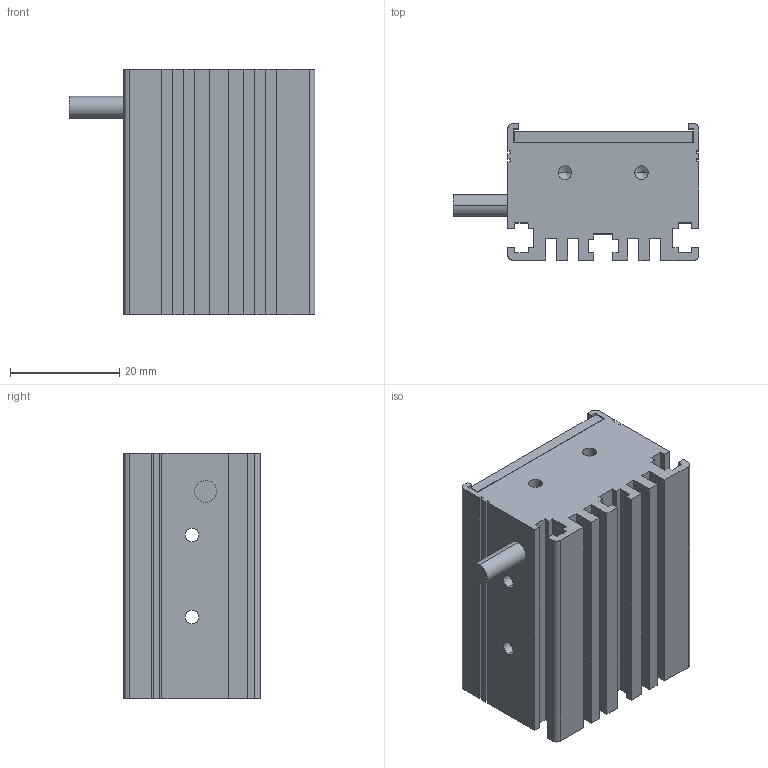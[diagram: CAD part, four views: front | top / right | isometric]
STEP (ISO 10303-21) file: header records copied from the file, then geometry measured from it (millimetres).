
FILE_DESCRIPTION (( 'STEP AP203' ), '1' );
FILE_NAME ('GTR4535-W.STEP', '2022-08-26T02:04:52', ( 'Windows User' ), ( 'P R C' ), 'SwSTEP 2.0', 'SolidWorks 2016', '' );
FILE_SCHEMA (( 'CONFIG_CONTROL_DESIGN' ));
Length unit declared in the file: millimetre
Products named in the file (1): GTR4535-W
Bounding box: 45 x 25 x 45 mm (x, y, z)
Volume: 23114.2 mm3; surface area: 15775.6 mm2
Topology: 2 solids, 2 shells, 246 faces, 640 edges, 420 vertices
Faces by surface type: plane 216, cylinder 22, cone 8
Entity records: 7439 total; most frequent: CARTESIAN_POINT 1299, ORIENTED_EDGE 1264, DIRECTION 1170, EDGE_CURVE 632, VECTOR 588, LINE 588, VERTEX_POINT 420, AXIS2_PLACEMENT_3D 291
